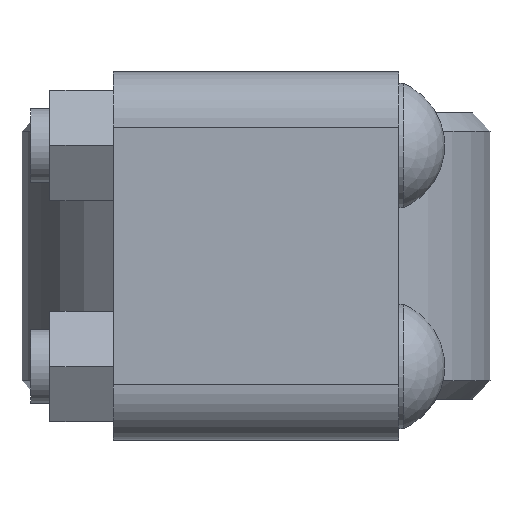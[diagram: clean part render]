
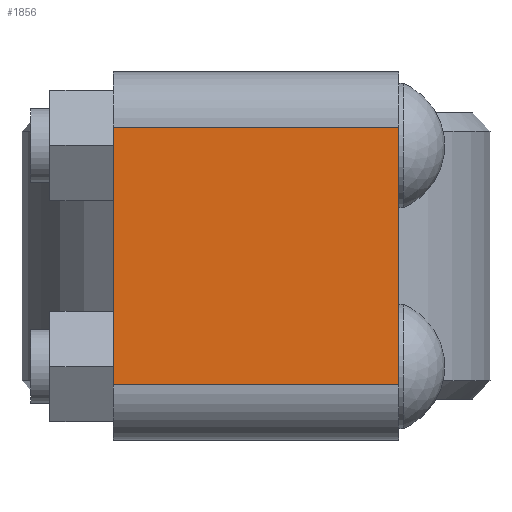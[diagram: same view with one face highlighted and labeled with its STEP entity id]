
A CAD part, left-side view. The second image highlights one B-rep face of the part: STEP entity #1856.
In plain terms, the highlighted planar face has unit normal (-1, 0, 0).
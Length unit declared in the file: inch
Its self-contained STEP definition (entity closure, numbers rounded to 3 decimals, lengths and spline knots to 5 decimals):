
#158=LINE('',#3013,#297);
#159=LINE('',#3017,#298);
#160=LINE('',#3019,#299);
#161=LINE('',#3020,#300);
#297=VECTOR('',#2449,0.3937);
#298=VECTOR('',#2454,0.3937);
#299=VECTOR('',#2455,0.3937);
#300=VECTOR('',#2456,0.3937);
#452=FACE_OUTER_BOUND('',#564,.T.);
#564=EDGE_LOOP('',(#1352,#1353,#1354,#1355));
#821=VERTEX_POINT('',#3010);
#822=VERTEX_POINT('',#3012);
#823=VERTEX_POINT('',#3016);
#824=VERTEX_POINT('',#3018);
#1026=EDGE_CURVE('',#822,#821,#158,.T.);
#1028=EDGE_CURVE('',#823,#821,#159,.T.);
#1029=EDGE_CURVE('',#824,#823,#160,.T.);
#1030=EDGE_CURVE('',#822,#824,#161,.T.);
#1352=ORIENTED_EDGE('',*,*,#1026,.T.);
#1353=ORIENTED_EDGE('',*,*,#1028,.F.);
#1354=ORIENTED_EDGE('',*,*,#1029,.F.);
#1355=ORIENTED_EDGE('',*,*,#1030,.F.);
#1663=PLANE('',#2048);
#1856=ADVANCED_FACE('',(#452),#1663,.T.);
#2048=AXIS2_PLACEMENT_3D('',#3015,#2452,#2453);
#2449=DIRECTION('',(0.,-1.,0.));
#2452=DIRECTION('center_axis',(-1.,0.,0.));
#2453=DIRECTION('ref_axis',(0.,0.,-1.));
#2454=DIRECTION('',(0.,0.,-1.));
#2455=DIRECTION('',(0.,-1.,0.));
#2456=DIRECTION('',(0.,0.,1.));
#3010=CARTESIAN_POINT('',(-4.875,-1.94,-1.75));
#3012=CARTESIAN_POINT('',(-4.875,1.94,-1.75));
#3013=CARTESIAN_POINT('',(-4.875,0.,-1.75));
#3015=CARTESIAN_POINT('Origin',(-4.875,0.,1.75));
#3016=CARTESIAN_POINT('',(-4.875,-1.94,1.75));
#3017=CARTESIAN_POINT('',(-4.875,-1.94,1.75));
#3018=CARTESIAN_POINT('',(-4.875,1.94,1.75));
#3019=CARTESIAN_POINT('',(-4.875,0.,1.75));
#3020=CARTESIAN_POINT('',(-4.875,1.94,0.));
